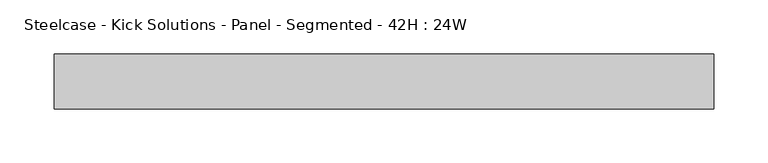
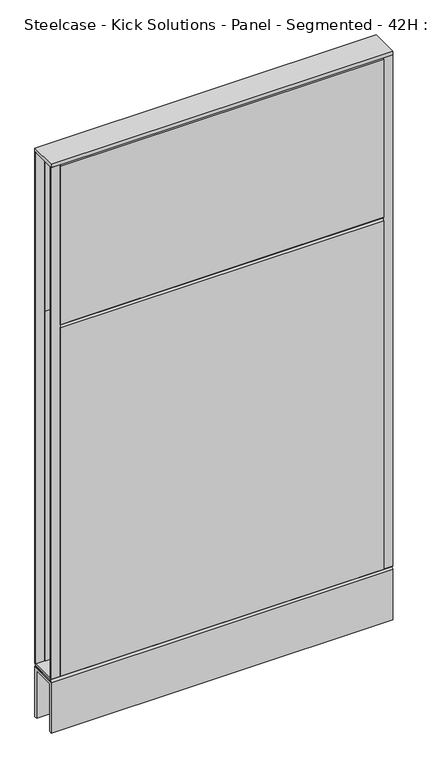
"""IFC4 building model written with IfcOpenShell, lengths in millimetres: furniture geometry, Steelcase - Kick Solutions - Panel - Segmented - 42H : 24W."""

from ifc_helpers import new_model, si_unit, frame, origin, place, context, project, spatial, polyline, outline, extrude, source, transform, mapped, element, save


def steelcase_kick_solutions_panel_segmented_42h_24w_239cf8c2(model_context):
    return source(origin(), model_context, "Body", "SweptSolid", [
        extrude(outline(polyline([(1.5e-06, 765.0811552), (-3.175, 762.0), (-3.175, 1066.8), (1.5e-06, 1063.7188448), (1.5e-06, 765.0811552)])), frame((15.8749996, 0.0, 0.0), z_axis=(1.0, 0.0, 0.0), x_axis=(0.0, 1.0, 0.0)), (0.0, 0.0, 1.0), 577.8500008),
        extrude(outline(polyline([(1.5e-06, 101.600003), (-3.175, 101.600003), (-3.175, 1066.8), (1.5e-06, 1063.7188448), (1.5e-06, 101.600003)])), frame((15.8749996, 0.0, 0.0), z_axis=(1.0, 0.0, 0.0), x_axis=(0.0, 1.0, 0.0)), (0.0, 0.0, 1.0), 577.8500008),
        extrude(outline(polyline([(-50.8000015, 765.0811552), (-50.8000015, 1063.7188448), (-47.625, 1066.8), (-47.625, 762.0), (-50.8000015, 765.0811552)])), frame((15.8749996, 0.0, 0.0), z_axis=(1.0, 0.0, 0.0), x_axis=(0.0, 1.0, 0.0)), (0.0, 0.0, 1.0), 577.8500008),
        extrude(outline(polyline([(-50.8000015, 101.600003), (-50.8000015, 758.9188448), (-47.625, 762.0), (-47.625, 101.600003), (-50.8000015, 101.600003)])), frame((15.8749996, 0.0, 0.0), z_axis=(1.0, 0.0, 0.0), x_axis=(0.0, 1.0, 0.0)), (0.0, 0.0, 1.0), 577.8500008),
        extrude(outline(polyline([(609.6, -3.1750015), (593.7250004, -3.1750015), (593.7250004, 0.0), (609.6, 0.0), (609.6, -3.1750015)])), frame((0.0, 0.0, 101.7169049), z_axis=(0.0, 0.0, 1.0), x_axis=(1.0, 0.0, 0.0)), (0.0, 0.0, 1.0), 965.199997),
        extrude(outline(polyline([(15.8749996, -50.8000015), (0.0, -50.8000015), (0.0, -47.625), (15.8749996, -47.625), (15.8749996, -50.8000015)])), frame((0.0, 0.0, 101.7169049), z_axis=(0.0, 0.0, 1.0), x_axis=(1.0, 0.0, 0.0)), (0.0, 0.0, 1.0), 965.199997),
        extrude(outline(polyline([(-50.7995075, 101.7169049), (-0.000494, 101.7169049), (-3.0583512, 98.5421458), (-47.7416503, 98.5421458), (-50.7995075, 101.7169049)])), frame((0.0, 0.0, 0.0), z_axis=(1.0, 0.0, 0.0), x_axis=(0.0, 1.0, 0.0)), (0.0, 0.0, 1.0), 609.6),
        extrude(outline(polyline([(609.6, 0.0), (609.6, -50.8000015), (0.0, -50.8000015), (0.0, 0.0), (609.6, 0.0)])), frame((0.0, 0.0, 1066.9169018), z_axis=(0.0, 0.0, 1.0), x_axis=(1.0, 0.0, 0.0)), (0.0, 0.0, 1.0), 6.35),
        extrude(outline(polyline([(15.8749996, -3.1750015), (0.0, -3.1750015), (0.0, 0.0), (15.8749996, 0.0), (15.8749996, -3.1750015)])), frame((0.0, 0.0, 101.7169049), z_axis=(0.0, 0.0, 1.0), x_axis=(1.0, 0.0, 0.0)), (0.0, 0.0, 1.0), 965.199997),
        extrude(outline(polyline([(609.6, -50.8000015), (593.7250004, -50.8000015), (593.7250004, -47.625), (609.6, -47.625), (609.6, -50.8000015)])), frame((0.0, 0.0, 101.7169049), z_axis=(0.0, 0.0, 1.0), x_axis=(1.0, 0.0, 0.0)), (0.0, 0.0, 1.0), 965.199997),
        extrude(outline(polyline([(-50.8000015, 95.3668927), (-47.6247484, 98.5421458), (-3.1752531, 98.5421458), (0.0, 95.3668927), (-50.8000015, 95.3668927)])), frame((0.0, 0.0, 0.0), z_axis=(1.0, 0.0, 0.0), x_axis=(0.0, 1.0, 0.0)), (0.0, 0.0, 1.0), 609.6),
        extrude(outline(polyline([(0.0, 0.0), (-5.08, 0.0), (-5.08, 90.2869018), (-45.7200015, 90.2869018), (-45.7200015, 0.0), (-50.8000015, 0.0), (-50.8000015, 95.3669018), (0.0, 95.3669018), (0.0, 0.0)])), frame((0.0, 0.0, 0.0), z_axis=(1.0, 0.0, 0.0), x_axis=(0.0, 1.0, 0.0)), (0.0, 0.0, 1.0), 609.6),
    ])


if __name__ == "__main__":
    model = new_model("IFC4")
    model_context = context("Model", 3, world=origin())
    ifc_project = project(units=[si_unit("LENGTHUNIT", "METRE", prefix="MILLI")], contexts=[model_context])
    site = spatial("IfcSite", under=ifc_project)
    building = spatial("IfcBuilding", under=site)
    placement = place(None, origin())
    steelcase_kick_solutions_panel_segmented_42h_24w_shape = steelcase_kick_solutions_panel_segmented_42h_24w_239cf8c2(model_context)
    element("IfcFurniture", 1, ObjectType="Steelcase - Kick Solutions - Panel - Segmented - 42H : 24W", at=placement, inside=building, context=model_context, shape_type="MappedRepresentation", body=[
        mapped(steelcase_kick_solutions_panel_segmented_42h_24w_shape, transform((0.0, 0.0, 0.0), x_axis=(1.0, 0.0, 0.0), y_axis=(0.0, 1.0, 0.0), z_axis=(0.0, 0.0, 1.0))),
    ])
    save(model, "model.ifc")
